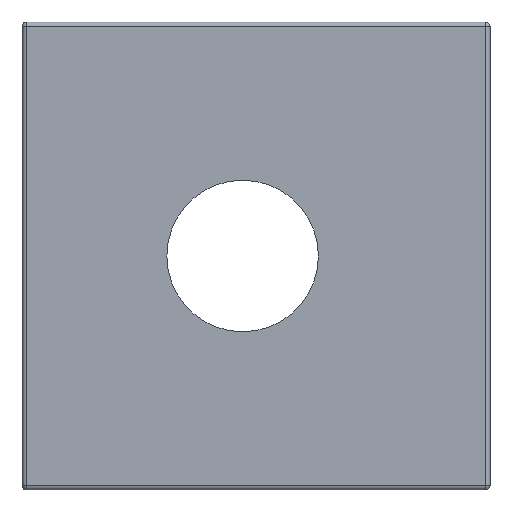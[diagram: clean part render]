
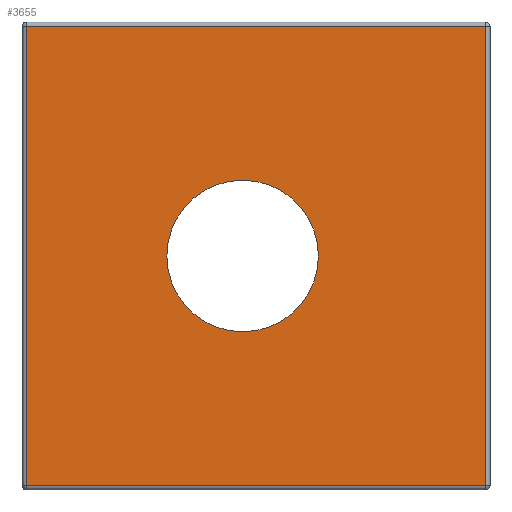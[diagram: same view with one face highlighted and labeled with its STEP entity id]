
A CAD part, left-side view. The second image highlights one B-rep face of the part: STEP entity #3655.
In plain terms, the highlighted planar face has unit normal (-1, 0, 0).
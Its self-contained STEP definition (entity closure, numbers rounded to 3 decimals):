
#92 = EDGE_LOOP ( 'NONE', ( #1856, #5134 ) ) ;
#169 = DIRECTION ( 'NONE',  ( 0., 0., -1. ) ) ;
#327 = EDGE_CURVE ( 'NONE', #3467, #1014, #3530, .T. ) ;
#577 = CARTESIAN_POINT ( 'NONE',  ( 2199.177, -681.294, -21. ) ) ;
#605 = EDGE_CURVE ( 'NONE', #827, #1599, #3662, .T. ) ;
#695 = EDGE_CURVE ( 'NONE', #1014, #3467, #1865, .T. ) ;
#827 = VERTEX_POINT ( 'NONE', #2422 ) ;
#954 = CARTESIAN_POINT ( 'NONE',  ( 2199.177, -670.194, -7.1 ) ) ;
#1014 = VERTEX_POINT ( 'NONE', #4268 ) ;
#1021 = CARTESIAN_POINT ( 'NONE',  ( 2199.177, -681.094, -21. ) ) ;
#1041 = DIRECTION ( 'NONE',  ( 0., 0., 1. ) ) ;
#1108 = DIRECTION ( 'NONE',  ( 1., 0., 0. ) ) ;
#1219 = CARTESIAN_POINT ( 'NONE',  ( 2199.177, -681.294, -0.2 ) ) ;
#1363 = CARTESIAN_POINT ( 'NONE',  ( 2199.177, -660.494, -21. ) ) ;
#1364 = CARTESIAN_POINT ( 'NONE',  ( 2199.177, -681.094, -20.8 ) ) ;
#1487 = LINE ( 'NONE', #1219, #4586 ) ;
#1524 = LINE ( 'NONE', #3503, #2768 ) ;
#1540 = CARTESIAN_POINT ( 'NONE',  ( 2199.177, -670.194, -10.5 ) ) ;
#1554 = DIRECTION ( 'NONE',  ( 0., 0., 1. ) ) ;
#1599 = VERTEX_POINT ( 'NONE', #3814 ) ;
#1856 = ORIENTED_EDGE ( 'NONE', *, *, #327, .T. ) ;
#1865 = CIRCLE ( 'NONE', #1974, 3.4 ) ;
#1974 = AXIS2_PLACEMENT_3D ( 'NONE', #4274, #1108, #1041 ) ;
#2000 = VECTOR ( 'NONE', #2184, 1000. ) ;
#2099 = VECTOR ( 'NONE', #3791, 1000. ) ;
#2120 = DIRECTION ( 'NONE',  ( 1., 0., 0. ) ) ;
#2130 = VERTEX_POINT ( 'NONE', #1364 ) ;
#2184 = DIRECTION ( 'NONE',  ( 0., 0., 1. ) ) ;
#2246 = LINE ( 'NONE', #1021, #2099 ) ;
#2259 = ORIENTED_EDGE ( 'NONE', *, *, #605, .F. ) ;
#2333 = EDGE_CURVE ( 'NONE', #2130, #827, #1524, .T. ) ;
#2422 = CARTESIAN_POINT ( 'NONE',  ( 2199.177, -660.494, -20.8 ) ) ;
#2577 = ORIENTED_EDGE ( 'NONE', *, *, #3667, .F. ) ;
#2768 = VECTOR ( 'NONE', #3523, 1000. ) ;
#2892 = AXIS2_PLACEMENT_3D ( 'NONE', #577, #2120, #169 ) ;
#3035 = EDGE_CURVE ( 'NONE', #1599, #4186, #1487, .T. ) ;
#3067 = AXIS2_PLACEMENT_3D ( 'NONE', #1540, #3126, #1554 ) ;
#3075 = EDGE_LOOP ( 'NONE', ( #2259, #3256, #2577, #4379 ) ) ;
#3126 = DIRECTION ( 'NONE',  ( 1., 0., 0. ) ) ;
#3256 = ORIENTED_EDGE ( 'NONE', *, *, #2333, .F. ) ;
#3467 = VERTEX_POINT ( 'NONE', #954 ) ;
#3503 = CARTESIAN_POINT ( 'NONE',  ( 2199.177, -681.294, -20.8 ) ) ;
#3523 = DIRECTION ( 'NONE',  ( 0., 1., 0. ) ) ;
#3530 = CIRCLE ( 'NONE', #3067, 3.4 ) ;
#3625 = DIRECTION ( 'NONE',  ( 0., -1., 0. ) ) ;
#3655 = ADVANCED_FACE ( 'NONE', ( #3765, #4079 ), #4199, .F. ) ;
#3662 = LINE ( 'NONE', #1363, #2000 ) ;
#3667 = EDGE_CURVE ( 'NONE', #4186, #2130, #2246, .T. ) ;
#3765 = FACE_BOUND ( 'NONE', #92, .T. ) ;
#3791 = DIRECTION ( 'NONE',  ( 0., 0., -1. ) ) ;
#3814 = CARTESIAN_POINT ( 'NONE',  ( 2199.177, -660.494, -0.2 ) ) ;
#4079 = FACE_OUTER_BOUND ( 'NONE', #3075, .T. ) ;
#4186 = VERTEX_POINT ( 'NONE', #5177 ) ;
#4199 = PLANE ( 'NONE',  #2892 ) ;
#4268 = CARTESIAN_POINT ( 'NONE',  ( 2199.177, -670.194, -13.9 ) ) ;
#4274 = CARTESIAN_POINT ( 'NONE',  ( 2199.177, -670.194, -10.5 ) ) ;
#4379 = ORIENTED_EDGE ( 'NONE', *, *, #3035, .F. ) ;
#4586 = VECTOR ( 'NONE', #3625, 1000. ) ;
#5134 = ORIENTED_EDGE ( 'NONE', *, *, #695, .T. ) ;
#5177 = CARTESIAN_POINT ( 'NONE',  ( 2199.177, -681.094, -0.2 ) ) ;
